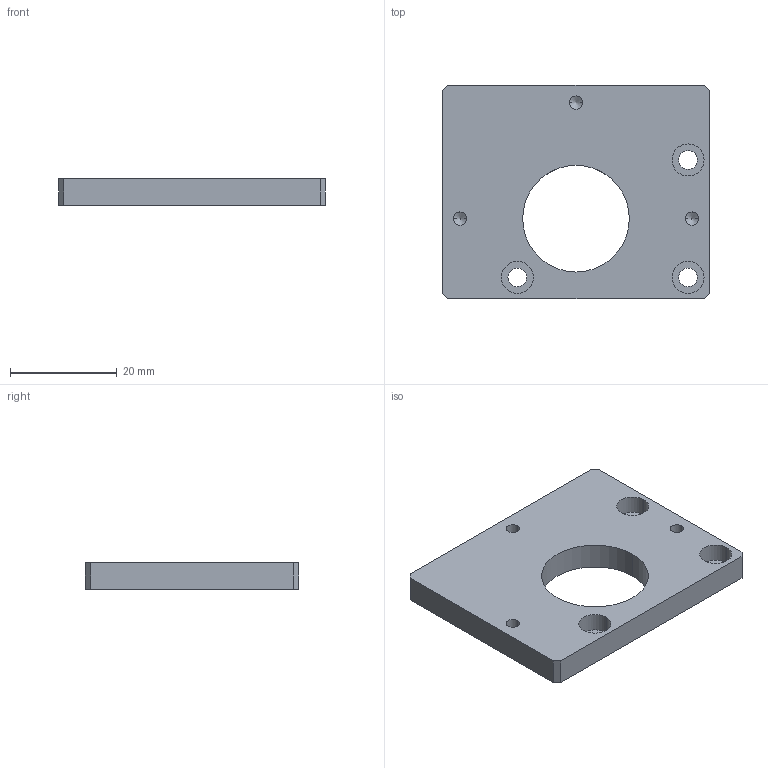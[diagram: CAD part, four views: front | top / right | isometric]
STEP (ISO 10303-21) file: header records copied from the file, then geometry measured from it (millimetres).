
FILE_DESCRIPTION (( 'STEP AP203' ), '1' );
FILE_NAME ('H410-HTP.STEP', '2020-09-16T09:51:14', ( 'suruga' ), ( '' ), 'SwSTEP 2.0', 'SolidWorks 2017', '' );
FILE_SCHEMA (( 'CONFIG_CONTROL_DESIGN' ));
Length unit declared in the file: millimetre
Products named in the file (1): H410-HTP
Bounding box: 50 x 40 x 5 mm (x, y, z)
Volume: 8016.4 mm3; surface area: 4856.5 mm2
Topology: 1 solids, 1 shells, 39 faces, 96 edges, 59 vertices
Faces by surface type: cylinder 20, plane 13, cone 6
Entity records: 1213 total; most frequent: DIRECTION 210, CARTESIAN_POINT 189, ORIENTED_EDGE 180, EDGE_CURVE 90, AXIS2_PLACEMENT_3D 80, VERTEX_POINT 59, EDGE_LOOP 53, LINE 50
